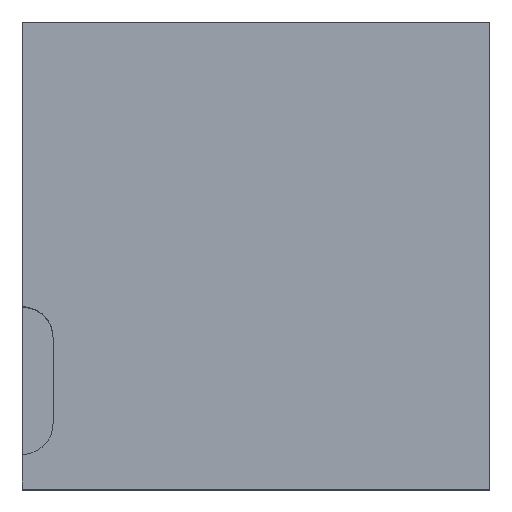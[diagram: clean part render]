
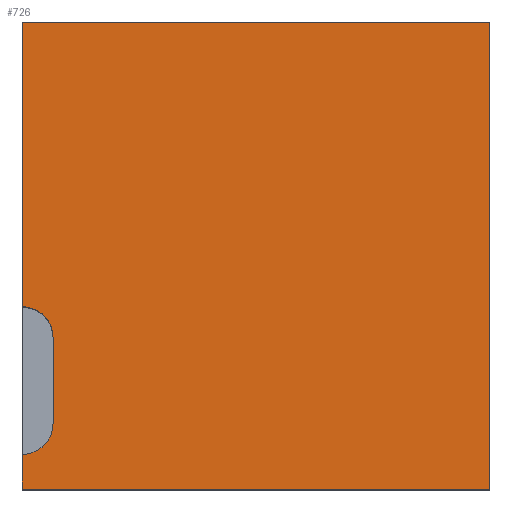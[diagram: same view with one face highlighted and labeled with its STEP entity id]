
A CAD part, top view. The second image highlights one B-rep face of the part: STEP entity #726.
In plain terms, the highlighted planar face has unit normal (0, 0, 1).
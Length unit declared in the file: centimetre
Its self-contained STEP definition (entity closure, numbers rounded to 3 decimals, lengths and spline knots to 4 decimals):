
#2 = ORIENTED_EDGE ( 'NONE', *, *, #55, .F. ) ;
#12 = ORIENTED_EDGE ( 'NONE', *, *, #399, .T. ) ;
#24 = EDGE_CURVE ( 'NONE', #621, #663, #681, .T. ) ;
#26 = CARTESIAN_POINT ( 'NONE',  ( 0., 1000., 1000. ) ) ;
#33 = ORIENTED_EDGE ( 'NONE', *, *, #831, .T. ) ;
#38 = CARTESIAN_POINT ( 'NONE',  ( 65.4861, 139.9793, 1000. ) ) ;
#52 = CARTESIAN_POINT ( 'NONE',  ( 0., 390.5884, 1000. ) ) ;
#55 = EDGE_CURVE ( 'NONE', #143, #394, #216, .T. ) ;
#87 = EDGE_CURVE ( 'NONE', #621, #542, #775, .T. ) ;
#103 = EDGE_CURVE ( 'NONE', #401, #409, #288, .T. ) ;
#106 = VECTOR ( 'NONE', #221, 100. ) ;
#115 = CARTESIAN_POINT ( 'NONE',  ( 0., 1000., 1000. ) ) ;
#116 = EDGE_CURVE ( 'NONE', #663, #805, #490, .T. ) ;
#131 = CARTESIAN_POINT ( 'NONE',  ( 65.4861, 325.1023, 1000. ) ) ;
#137 = CARTESIAN_POINT ( 'NONE',  ( 0., 74.4933, 1000. ) ) ;
#143 = VERTEX_POINT ( 'NONE', #169 ) ;
#147 = CARTESIAN_POINT ( 'NONE',  ( 1000., 0., 1000. ) ) ;
#164 = DIRECTION ( 'NONE',  ( 1., 0., 0. ) ) ;
#169 = CARTESIAN_POINT ( 'NONE',  ( 65.4861, 325.1023, 1000. ) ) ;
#205 = EDGE_LOOP ( 'NONE', ( #521, #481, #210, #12, #361, #33, #2, #218 ) ) ;
#210 = ORIENTED_EDGE ( 'NONE', *, *, #116, .T. ) ;
#216 = CIRCLE ( 'NONE', #700, 65.4861 ) ;
#218 = ORIENTED_EDGE ( 'NONE', *, *, #282, .F. ) ;
#221 = DIRECTION ( 'NONE',  ( 0., -1., 0. ) ) ;
#224 = VECTOR ( 'NONE', #255, 100. ) ;
#244 = PLANE ( 'NONE',  #494 ) ;
#252 = DIRECTION ( 'NONE',  ( 0., 0., 1. ) ) ;
#255 = DIRECTION ( 'NONE',  ( 0., 1., 0. ) ) ;
#263 = VECTOR ( 'NONE', #298, 100. ) ;
#273 = CARTESIAN_POINT ( 'NONE',  ( 0., 139.9793, 1000. ) ) ;
#282 = EDGE_CURVE ( 'NONE', #542, #143, #508, .T. ) ;
#288 = LINE ( 'NONE', #115, #263 ) ;
#298 = DIRECTION ( 'NONE',  ( -1., 0., 0. ) ) ;
#361 = ORIENTED_EDGE ( 'NONE', *, *, #103, .T. ) ;
#391 = CARTESIAN_POINT ( 'NONE',  ( 0., 1000., 1000. ) ) ;
#394 = VERTEX_POINT ( 'NONE', #52 ) ;
#399 = EDGE_CURVE ( 'NONE', #805, #401, #644, .T. ) ;
#401 = VERTEX_POINT ( 'NONE', #781 ) ;
#409 = VERTEX_POINT ( 'NONE', #690 ) ;
#415 = DIRECTION ( 'NONE',  ( 0., -1., 0. ) ) ;
#451 = AXIS2_PLACEMENT_3D ( 'NONE', #273, #559, #752 ) ;
#477 = VECTOR ( 'NONE', #518, 100. ) ;
#479 = DIRECTION ( 'NONE',  ( 0., 0., 1. ) ) ;
#481 = ORIENTED_EDGE ( 'NONE', *, *, #24, .T. ) ;
#490 = LINE ( 'NONE', #760, #525 ) ;
#494 = AXIS2_PLACEMENT_3D ( 'NONE', #504, #252, #767 ) ;
#504 = CARTESIAN_POINT ( 'NONE',  ( 0., 0., 1000. ) ) ;
#508 = LINE ( 'NONE', #131, #224 ) ;
#518 = DIRECTION ( 'NONE',  ( 0., 1., 0. ) ) ;
#521 = ORIENTED_EDGE ( 'NONE', *, *, #87, .F. ) ;
#525 = VECTOR ( 'NONE', #164, 100. ) ;
#531 = LINE ( 'NONE', #391, #584 ) ;
#542 = VERTEX_POINT ( 'NONE', #38 ) ;
#559 = DIRECTION ( 'NONE',  ( 0., 0., 1. ) ) ;
#584 = VECTOR ( 'NONE', #415, 100. ) ;
#602 = CARTESIAN_POINT ( 'NONE',  ( 0., 325.1023, 1000. ) ) ;
#621 = VERTEX_POINT ( 'NONE', #137 ) ;
#640 = FACE_OUTER_BOUND ( 'NONE', #205, .T. ) ;
#644 = LINE ( 'NONE', #838, #477 ) ;
#663 = VERTEX_POINT ( 'NONE', #714 ) ;
#664 = DIRECTION ( 'NONE',  ( -1., 0., 0. ) ) ;
#681 = LINE ( 'NONE', #26, #106 ) ;
#690 = CARTESIAN_POINT ( 'NONE',  ( 0., 1000., 1000. ) ) ;
#700 = AXIS2_PLACEMENT_3D ( 'NONE', #602, #479, #664 ) ;
#714 = CARTESIAN_POINT ( 'NONE',  ( 0., 0., 1000. ) ) ;
#726 = ADVANCED_FACE ( 'NONE', ( #640 ), #244, .T. ) ;
#752 = DIRECTION ( 'NONE',  ( 1., 0., 0. ) ) ;
#760 = CARTESIAN_POINT ( 'NONE',  ( 0., 0., 1000. ) ) ;
#767 = DIRECTION ( 'NONE',  ( 1., 0., 0. ) ) ;
#775 = CIRCLE ( 'NONE', #451, 65.4861 ) ;
#781 = CARTESIAN_POINT ( 'NONE',  ( 1000., 1000., 1000. ) ) ;
#805 = VERTEX_POINT ( 'NONE', #147 ) ;
#831 = EDGE_CURVE ( 'NONE', #409, #394, #531, .T. ) ;
#838 = CARTESIAN_POINT ( 'NONE',  ( 1000., 1000., 1000. ) ) ;
